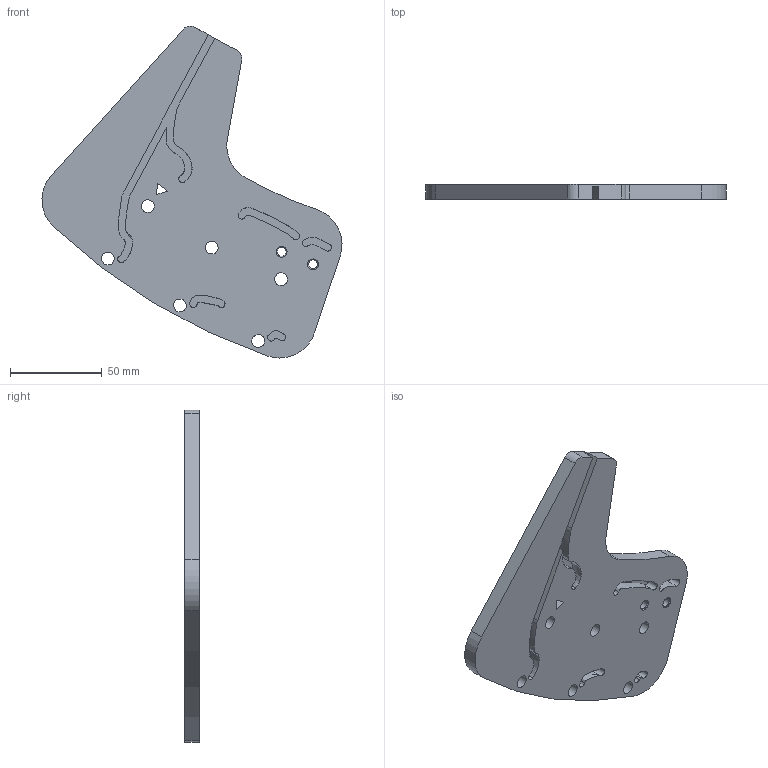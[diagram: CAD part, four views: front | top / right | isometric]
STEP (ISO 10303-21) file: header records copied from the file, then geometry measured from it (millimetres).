
FILE_DESCRIPTION(/* description */ (''),/* implementation_level */ '2;1');
FILE_NAME(/* name */ 'GETOUT_STAVE_93-SX.stp',/* time_stamp */ '2018-10-15T11:02:49+02:00',/* author */ (''),/* organization */ (''),/* preprocessor_version */ 'ST-DEVELOPER v16.7',/* originating_system */ 'SIEMENS PLM Software NX 12.0',/* authorisation */ '');
FILE_SCHEMA (('AP203_CONFIGURATION_CONTROLLED_3D_DESIGN_OF_MECHANICAL_PARTS_AND_ASSEMBLIES_MIM_LF { 1 0 10303 403 2 1 2}'));
Length unit declared in the file: millimetre
Products named in the file (1): turc3FB8140Bmo0h
Bounding box: 163.75 x 8 x 181.19 mm (x, y, z)
Volume: 117538.9 mm3; surface area: 40714.4 mm2
Topology: 1 solids, 1 shells, 289 faces, 755 edges, 502 vertices
Faces by surface type: plane 199, extrusion 57, cylinder 29, cone 4
Full cylindrical faces by diameter (mm): 5 x2, 7 x6
Entity records: 11482 total; most frequent: CARTESIAN_POINT 5040, ORIENTED_EDGE 1486, DIRECTION 908, EDGE_CURVE 743, VERTEX_POINT 502, B_SPLINE_CURVE_WITH_KNOTS 477, EDGE_LOOP 353, VECTOR 318
